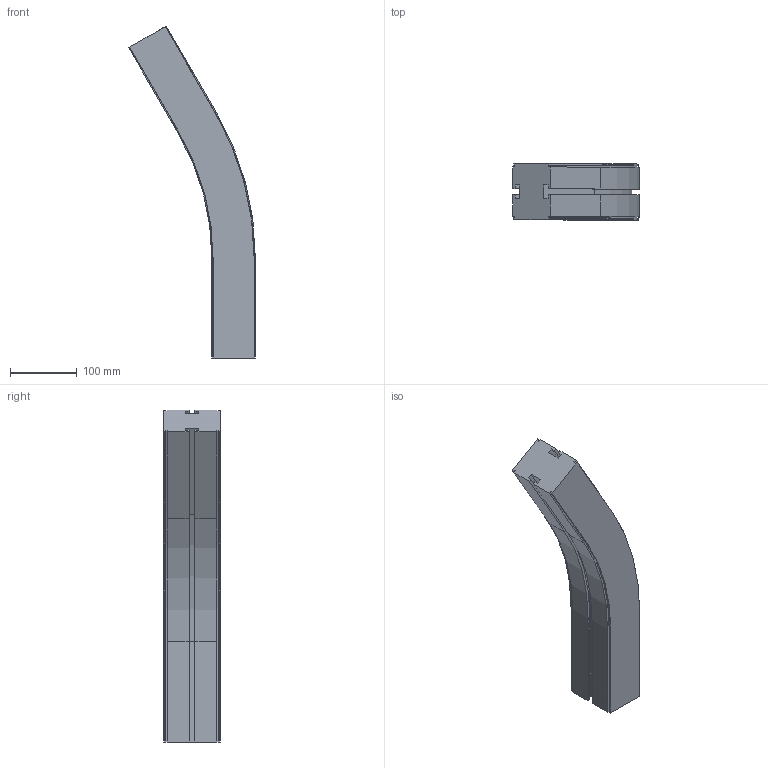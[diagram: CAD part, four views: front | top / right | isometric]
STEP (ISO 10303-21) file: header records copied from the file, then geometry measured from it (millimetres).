
FILE_DESCRIPTION (( 'STEP AP214' ), '1' );
FILE_NAME ('CS SL Horizontaalbocht.65 30° R400.STEP', '2017-02-08T07:35:24', ( '' ), ( '' ), 'SwSTEP 2.0', 'SolidWorks 2016', '' );
FILE_SCHEMA (( 'AUTOMOTIVE_DESIGN' ));
Length unit declared in the file: millimetre
Products named in the file (1): CS SL Horizontaalbocht.65 30° R400
Bounding box: 189.24 x 84 x 496.15 mm (x, y, z)
Volume: 2575028.2 mm3; surface area: 215902.3 mm2
Topology: 1 solids, 1 shells, 98 faces, 272 edges, 176 vertices
Faces by surface type: plane 72, cylinder 18, cone 8
Entity records: 3126 total; most frequent: CARTESIAN_POINT 547, ORIENTED_EDGE 544, DIRECTION 514, EDGE_CURVE 272, VECTOR 228, LINE 228, VERTEX_POINT 176, AXIS2_PLACEMENT_3D 143
